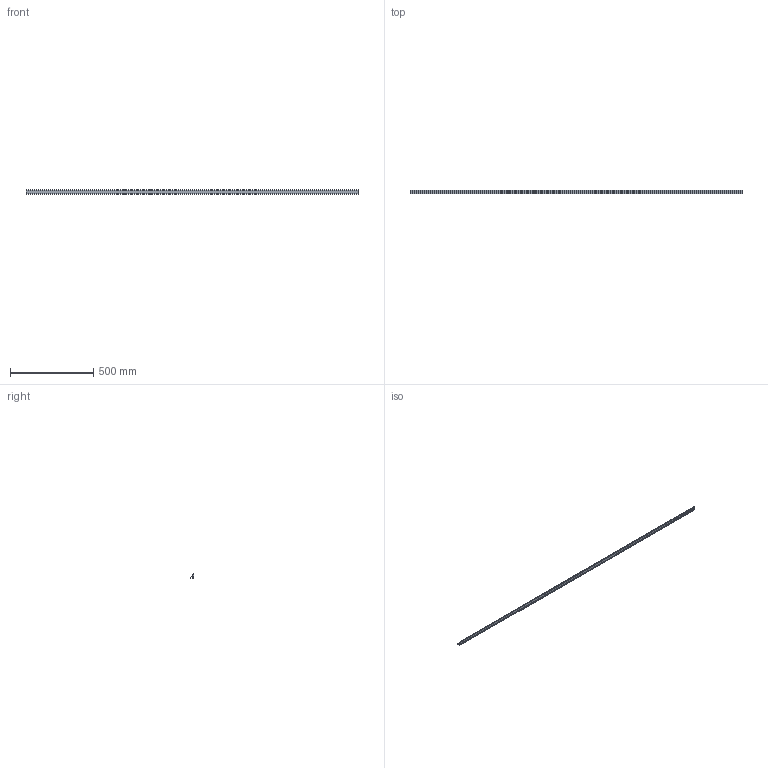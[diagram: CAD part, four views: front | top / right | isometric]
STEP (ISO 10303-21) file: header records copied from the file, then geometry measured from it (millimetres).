
FILE_DESCRIPTION (( 'STEP AP214' ), '1' );
FILE_NAME ('F50826A-1.step', '2024-12-03T16:17:57', ( '' ), ( '' ), 'SwSTEP 2.0', 'SolidWorks 2023', '' );
FILE_SCHEMA (( 'AUTOMOTIVE_DESIGN' ));
Length unit declared in the file: millimetre
Products named in the file (1): F50826A-1
Bounding box: 2000 x 20.45 x 25 mm (x, y, z)
Volume: 228899.9 mm3; surface area: 273172.4 mm2
Topology: 1 solids, 1 shells, 41 faces, 117 edges, 78 vertices
Faces by surface type: plane 32, cylinder 9
Entity records: 1356 total; most frequent: CARTESIAN_POINT 237, ORIENTED_EDGE 234, DIRECTION 219, EDGE_CURVE 117, LINE 99, VECTOR 99, VERTEX_POINT 78, AXIS2_PLACEMENT_3D 60
